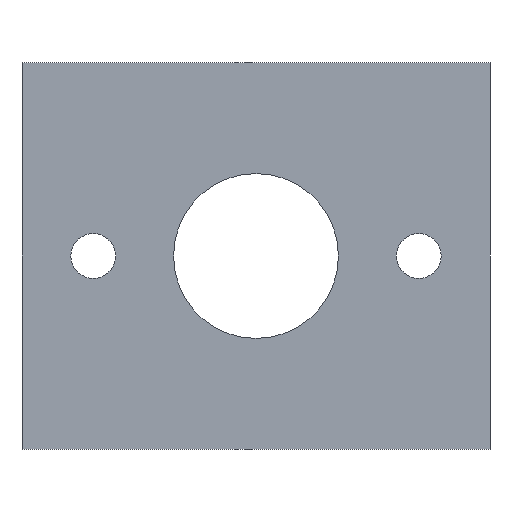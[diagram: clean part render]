
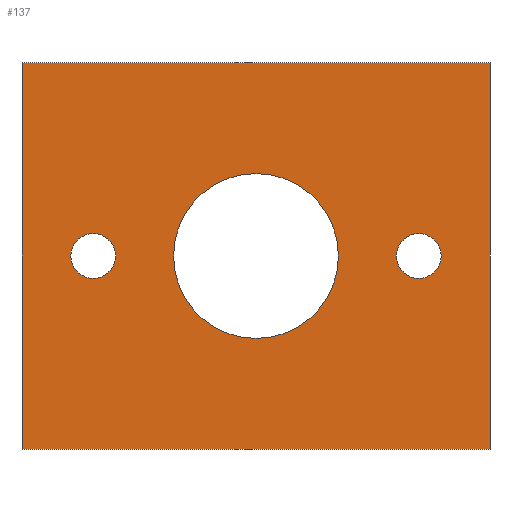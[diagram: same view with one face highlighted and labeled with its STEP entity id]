
A CAD part, front view. The second image highlights one B-rep face of the part: STEP entity #137.
In plain terms, the highlighted planar face has unit normal (0, -1, 0).
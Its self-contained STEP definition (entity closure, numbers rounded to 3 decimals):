
#21 = EDGE_CURVE('',#22,#24,#26,.T.);
#22 = VERTEX_POINT('',#23);
#23 = CARTESIAN_POINT('',(-23.,-6.,-19.));
#24 = VERTEX_POINT('',#25);
#25 = CARTESIAN_POINT('',(-23.,-6.,19.));
#26 = SURFACE_CURVE('',#27,(#31,#43),.PCURVE_S1.);
#27 = LINE('',#28,#29);
#28 = CARTESIAN_POINT('',(-23.,-6.,-19.));
#29 = VECTOR('',#30,1.);
#30 = DIRECTION('',(0.,0.,1.));
#31 = PCURVE('',#32,#37);
#32 = PLANE('',#33);
#33 = AXIS2_PLACEMENT_3D('',#34,#35,#36);
#34 = CARTESIAN_POINT('',(-23.,-6.,-19.));
#35 = DIRECTION('',(1.,0.,0.));
#36 = DIRECTION('',(0.,0.,1.));
#37 = DEFINITIONAL_REPRESENTATION('',(#38),#42);
#38 = LINE('',#39,#40);
#39 = CARTESIAN_POINT('',(0.,0.));
#40 = VECTOR('',#41,1.);
#41 = DIRECTION('',(1.,0.));
#42 = ( GEOMETRIC_REPRESENTATION_CONTEXT(2) 
PARAMETRIC_REPRESENTATION_CONTEXT() REPRESENTATION_CONTEXT('2D SPACE',''
  ) );
#43 = PCURVE('',#44,#49);
#44 = PLANE('',#45);
#45 = AXIS2_PLACEMENT_3D('',#46,#47,#48);
#46 = CARTESIAN_POINT('',(-23.,-6.,-19.));
#47 = DIRECTION('',(0.,1.,0.));
#48 = DIRECTION('',(0.,0.,1.));
#49 = DEFINITIONAL_REPRESENTATION('',(#50),#54);
#50 = LINE('',#51,#52);
#51 = CARTESIAN_POINT('',(0.,0.));
#52 = VECTOR('',#53,1.);
#53 = DIRECTION('',(1.,0.));
#54 = ( GEOMETRIC_REPRESENTATION_CONTEXT(2) 
PARAMETRIC_REPRESENTATION_CONTEXT() REPRESENTATION_CONTEXT('2D SPACE',''
  ) );
#72 = PLANE('',#73);
#73 = AXIS2_PLACEMENT_3D('',#74,#75,#76);
#74 = CARTESIAN_POINT('',(-23.,-6.,-19.));
#75 = DIRECTION('',(0.,0.,1.));
#76 = DIRECTION('',(1.,0.,0.));
#126 = PLANE('',#127);
#127 = AXIS2_PLACEMENT_3D('',#128,#129,#130);
#128 = CARTESIAN_POINT('',(-23.,-6.,19.));
#129 = DIRECTION('',(0.,0.,1.));
#130 = DIRECTION('',(1.,0.,0.));
#137 = ADVANCED_FACE('',(#138,#213,#244,#275),#44,.F.);
#138 = FACE_BOUND('',#139,.F.);
#139 = EDGE_LOOP('',(#140,#163,#164,#187));
#140 = ORIENTED_EDGE('',*,*,#141,.F.);
#141 = EDGE_CURVE('',#22,#142,#144,.T.);
#142 = VERTEX_POINT('',#143);
#143 = CARTESIAN_POINT('',(23.,-6.,-19.));
#144 = SURFACE_CURVE('',#145,(#149,#156),.PCURVE_S1.);
#145 = LINE('',#146,#147);
#146 = CARTESIAN_POINT('',(-23.,-6.,-19.));
#147 = VECTOR('',#148,1.);
#148 = DIRECTION('',(1.,0.,0.));
#149 = PCURVE('',#44,#150);
#150 = DEFINITIONAL_REPRESENTATION('',(#151),#155);
#151 = LINE('',#152,#153);
#152 = CARTESIAN_POINT('',(0.,0.));
#153 = VECTOR('',#154,1.);
#154 = DIRECTION('',(0.,1.));
#155 = ( GEOMETRIC_REPRESENTATION_CONTEXT(2) 
PARAMETRIC_REPRESENTATION_CONTEXT() REPRESENTATION_CONTEXT('2D SPACE',''
  ) );
#156 = PCURVE('',#72,#157);
#157 = DEFINITIONAL_REPRESENTATION('',(#158),#162);
#158 = LINE('',#159,#160);
#159 = CARTESIAN_POINT('',(0.,0.));
#160 = VECTOR('',#161,1.);
#161 = DIRECTION('',(1.,0.));
#162 = ( GEOMETRIC_REPRESENTATION_CONTEXT(2) 
PARAMETRIC_REPRESENTATION_CONTEXT() REPRESENTATION_CONTEXT('2D SPACE',''
  ) );
#163 = ORIENTED_EDGE('',*,*,#21,.T.);
#164 = ORIENTED_EDGE('',*,*,#165,.T.);
#165 = EDGE_CURVE('',#24,#166,#168,.T.);
#166 = VERTEX_POINT('',#167);
#167 = CARTESIAN_POINT('',(23.,-6.,19.));
#168 = SURFACE_CURVE('',#169,(#173,#180),.PCURVE_S1.);
#169 = LINE('',#170,#171);
#170 = CARTESIAN_POINT('',(-23.,-6.,19.));
#171 = VECTOR('',#172,1.);
#172 = DIRECTION('',(1.,0.,0.));
#173 = PCURVE('',#44,#174);
#174 = DEFINITIONAL_REPRESENTATION('',(#175),#179);
#175 = LINE('',#176,#177);
#176 = CARTESIAN_POINT('',(38.,0.));
#177 = VECTOR('',#178,1.);
#178 = DIRECTION('',(0.,1.));
#179 = ( GEOMETRIC_REPRESENTATION_CONTEXT(2) 
PARAMETRIC_REPRESENTATION_CONTEXT() REPRESENTATION_CONTEXT('2D SPACE',''
  ) );
#180 = PCURVE('',#126,#181);
#181 = DEFINITIONAL_REPRESENTATION('',(#182),#186);
#182 = LINE('',#183,#184);
#183 = CARTESIAN_POINT('',(0.,0.));
#184 = VECTOR('',#185,1.);
#185 = DIRECTION('',(1.,0.));
#186 = ( GEOMETRIC_REPRESENTATION_CONTEXT(2) 
PARAMETRIC_REPRESENTATION_CONTEXT() REPRESENTATION_CONTEXT('2D SPACE',''
  ) );
#187 = ORIENTED_EDGE('',*,*,#188,.F.);
#188 = EDGE_CURVE('',#142,#166,#189,.T.);
#189 = SURFACE_CURVE('',#190,(#194,#201),.PCURVE_S1.);
#190 = LINE('',#191,#192);
#191 = CARTESIAN_POINT('',(23.,-6.,-19.));
#192 = VECTOR('',#193,1.);
#193 = DIRECTION('',(0.,0.,1.));
#194 = PCURVE('',#44,#195);
#195 = DEFINITIONAL_REPRESENTATION('',(#196),#200);
#196 = LINE('',#197,#198);
#197 = CARTESIAN_POINT('',(0.,46.));
#198 = VECTOR('',#199,1.);
#199 = DIRECTION('',(1.,0.));
#200 = ( GEOMETRIC_REPRESENTATION_CONTEXT(2) 
PARAMETRIC_REPRESENTATION_CONTEXT() REPRESENTATION_CONTEXT('2D SPACE',''
  ) );
#201 = PCURVE('',#202,#207);
#202 = PLANE('',#203);
#203 = AXIS2_PLACEMENT_3D('',#204,#205,#206);
#204 = CARTESIAN_POINT('',(23.,-6.,-19.));
#205 = DIRECTION('',(1.,0.,0.));
#206 = DIRECTION('',(0.,0.,1.));
#207 = DEFINITIONAL_REPRESENTATION('',(#208),#212);
#208 = LINE('',#209,#210);
#209 = CARTESIAN_POINT('',(0.,0.));
#210 = VECTOR('',#211,1.);
#211 = DIRECTION('',(1.,0.));
#212 = ( GEOMETRIC_REPRESENTATION_CONTEXT(2) 
PARAMETRIC_REPRESENTATION_CONTEXT() REPRESENTATION_CONTEXT('2D SPACE',''
  ) );
#213 = FACE_BOUND('',#214,.F.);
#214 = EDGE_LOOP('',(#215));
#215 = ORIENTED_EDGE('',*,*,#216,.F.);
#216 = EDGE_CURVE('',#217,#217,#219,.T.);
#217 = VERTEX_POINT('',#218);
#218 = CARTESIAN_POINT('',(-16.,-6.,2.2));
#219 = SURFACE_CURVE('',#220,(#225,#232),.PCURVE_S1.);
#220 = CIRCLE('',#221,2.2);
#221 = AXIS2_PLACEMENT_3D('',#222,#223,#224);
#222 = CARTESIAN_POINT('',(-16.,-6.,0.));
#223 = DIRECTION('',(0.,1.,0.));
#224 = DIRECTION('',(0.,-0.,1.));
#225 = PCURVE('',#44,#226);
#226 = DEFINITIONAL_REPRESENTATION('',(#227),#231);
#227 = CIRCLE('',#228,2.2);
#228 = AXIS2_PLACEMENT_2D('',#229,#230);
#229 = CARTESIAN_POINT('',(19.,7.));
#230 = DIRECTION('',(1.,0.));
#231 = ( GEOMETRIC_REPRESENTATION_CONTEXT(2) 
PARAMETRIC_REPRESENTATION_CONTEXT() REPRESENTATION_CONTEXT('2D SPACE',''
  ) );
#232 = PCURVE('',#233,#238);
#233 = CYLINDRICAL_SURFACE('',#234,2.2);
#234 = AXIS2_PLACEMENT_3D('',#235,#236,#237);
#235 = CARTESIAN_POINT('',(-16.,-8.,0.));
#236 = DIRECTION('',(0.,1.,0.));
#237 = DIRECTION('',(0.,-0.,1.));
#238 = DEFINITIONAL_REPRESENTATION('',(#239),#243);
#239 = LINE('',#240,#241);
#240 = CARTESIAN_POINT('',(0.,2.));
#241 = VECTOR('',#242,1.);
#242 = DIRECTION('',(1.,0.));
#243 = ( GEOMETRIC_REPRESENTATION_CONTEXT(2) 
PARAMETRIC_REPRESENTATION_CONTEXT() REPRESENTATION_CONTEXT('2D SPACE',''
  ) );
#244 = FACE_BOUND('',#245,.F.);
#245 = EDGE_LOOP('',(#246));
#246 = ORIENTED_EDGE('',*,*,#247,.F.);
#247 = EDGE_CURVE('',#248,#248,#250,.T.);
#248 = VERTEX_POINT('',#249);
#249 = CARTESIAN_POINT('',(0.,-6.,8.1));
#250 = SURFACE_CURVE('',#251,(#256,#263),.PCURVE_S1.);
#251 = CIRCLE('',#252,8.1);
#252 = AXIS2_PLACEMENT_3D('',#253,#254,#255);
#253 = CARTESIAN_POINT('',(0.,-6.,0.));
#254 = DIRECTION('',(0.,1.,0.));
#255 = DIRECTION('',(0.,-0.,1.));
#256 = PCURVE('',#44,#257);
#257 = DEFINITIONAL_REPRESENTATION('',(#258),#262);
#258 = CIRCLE('',#259,8.1);
#259 = AXIS2_PLACEMENT_2D('',#260,#261);
#260 = CARTESIAN_POINT('',(19.,23.));
#261 = DIRECTION('',(1.,0.));
#262 = ( GEOMETRIC_REPRESENTATION_CONTEXT(2) 
PARAMETRIC_REPRESENTATION_CONTEXT() REPRESENTATION_CONTEXT('2D SPACE',''
  ) );
#263 = PCURVE('',#264,#269);
#264 = CYLINDRICAL_SURFACE('',#265,8.1);
#265 = AXIS2_PLACEMENT_3D('',#266,#267,#268);
#266 = CARTESIAN_POINT('',(0.,-8.,0.));
#267 = DIRECTION('',(0.,1.,0.));
#268 = DIRECTION('',(0.,-0.,1.));
#269 = DEFINITIONAL_REPRESENTATION('',(#270),#274);
#270 = LINE('',#271,#272);
#271 = CARTESIAN_POINT('',(0.,2.));
#272 = VECTOR('',#273,1.);
#273 = DIRECTION('',(1.,0.));
#274 = ( GEOMETRIC_REPRESENTATION_CONTEXT(2) 
PARAMETRIC_REPRESENTATION_CONTEXT() REPRESENTATION_CONTEXT('2D SPACE',''
  ) );
#275 = FACE_BOUND('',#276,.F.);
#276 = EDGE_LOOP('',(#277));
#277 = ORIENTED_EDGE('',*,*,#278,.F.);
#278 = EDGE_CURVE('',#279,#279,#281,.T.);
#279 = VERTEX_POINT('',#280);
#280 = CARTESIAN_POINT('',(16.,-6.,2.2));
#281 = SURFACE_CURVE('',#282,(#287,#294),.PCURVE_S1.);
#282 = CIRCLE('',#283,2.2);
#283 = AXIS2_PLACEMENT_3D('',#284,#285,#286);
#284 = CARTESIAN_POINT('',(16.,-6.,0.));
#285 = DIRECTION('',(0.,1.,0.));
#286 = DIRECTION('',(0.,-0.,1.));
#287 = PCURVE('',#44,#288);
#288 = DEFINITIONAL_REPRESENTATION('',(#289),#293);
#289 = CIRCLE('',#290,2.2);
#290 = AXIS2_PLACEMENT_2D('',#291,#292);
#291 = CARTESIAN_POINT('',(19.,39.));
#292 = DIRECTION('',(1.,0.));
#293 = ( GEOMETRIC_REPRESENTATION_CONTEXT(2) 
PARAMETRIC_REPRESENTATION_CONTEXT() REPRESENTATION_CONTEXT('2D SPACE',''
  ) );
#294 = PCURVE('',#295,#300);
#295 = CYLINDRICAL_SURFACE('',#296,2.2);
#296 = AXIS2_PLACEMENT_3D('',#297,#298,#299);
#297 = CARTESIAN_POINT('',(16.,-8.,0.));
#298 = DIRECTION('',(0.,1.,0.));
#299 = DIRECTION('',(0.,-0.,1.));
#300 = DEFINITIONAL_REPRESENTATION('',(#301),#305);
#301 = LINE('',#302,#303);
#302 = CARTESIAN_POINT('',(0.,2.));
#303 = VECTOR('',#304,1.);
#304 = DIRECTION('',(1.,0.));
#305 = ( GEOMETRIC_REPRESENTATION_CONTEXT(2) 
PARAMETRIC_REPRESENTATION_CONTEXT() REPRESENTATION_CONTEXT('2D SPACE',''
  ) );
